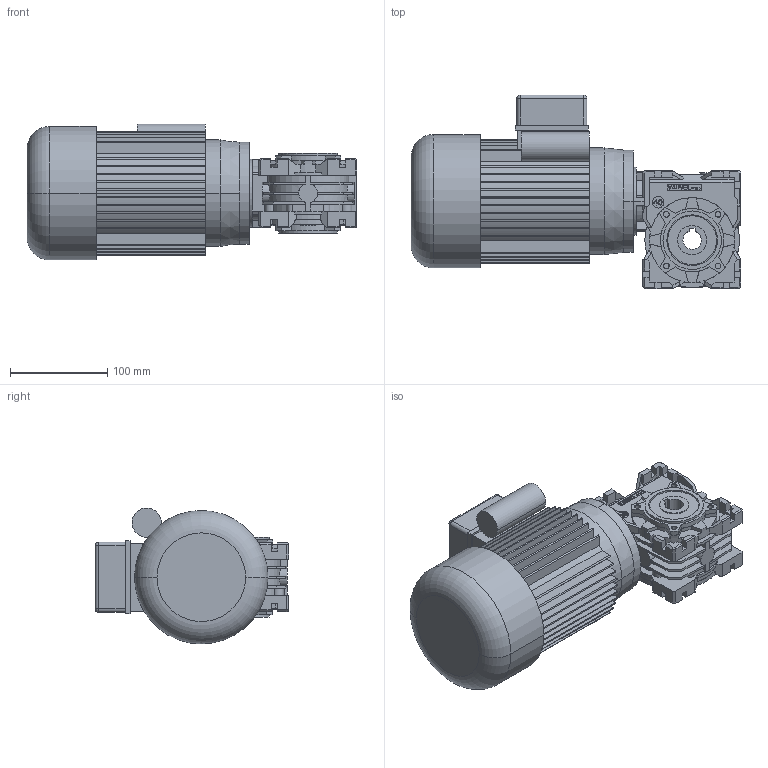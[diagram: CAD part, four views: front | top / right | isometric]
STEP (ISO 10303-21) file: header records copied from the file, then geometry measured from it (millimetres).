
FILE_DESCRIPTION (( 'STEP AP214' ), '1' );
FILE_NAME ('M71B14+RT40.STEP', '2020-04-22T08:40:04', ( '' ), ( '' ), 'SwSTEP 2.0', 'SolidWorks 2018', '' );
FILE_SCHEMA (( 'AUTOMOTIVE_DESIGN' ));
Length unit declared in the file: millimetre
Products named in the file (3): M71B14; RT40-71; M71B14+RT40
Assembly tree (2 placements, depth 2):
  M71B14+RT40
    RT40-71
    M71B14
Bounding box: 338.5 x 199 x 139.5 mm (x, y, z)
Volume: 3394286.7 mm3; surface area: 353641.6 mm2
Topology: 3 solids, 5 shells, 1174 faces, 3212 edges, 2104 vertices
Faces by surface type: plane 787, cylinder 323, cone 55, torus 5, sphere 4
Entity records: 38570 total; most frequent: CARTESIAN_POINT 7772, ORIENTED_EDGE 6400, DIRECTION 6208, EDGE_CURVE 3200, LINE 2312, VECTOR 2312, VERTEX_POINT 2104, AXIS2_PLACEMENT_3D 1948
